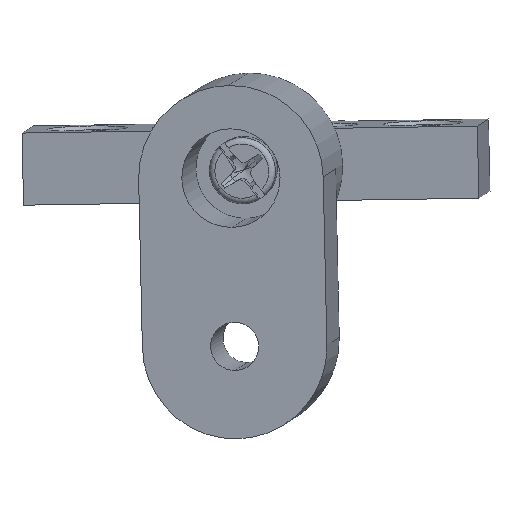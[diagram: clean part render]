
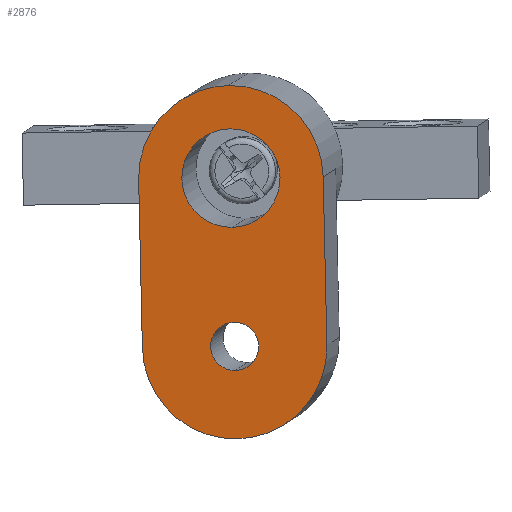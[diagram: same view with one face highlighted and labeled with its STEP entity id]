
A CAD part, front view. The second image highlights one B-rep face of the part: STEP entity #2876.
In plain terms, the highlighted planar face has unit normal (-0.102, -0.993, -0.065) as drawn and (0, 0, -1) by its records, which use the part's own axes.
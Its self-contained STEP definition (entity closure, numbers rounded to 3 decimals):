
#40 = EDGE_CURVE ( 'NONE', #6148, #3262, #1898, .T. ) ;
#105 = EDGE_LOOP ( 'NONE', ( #698, #129 ) ) ;
#115 = DIRECTION ( 'NONE',  ( 0., 0., -1. ) ) ;
#129 = ORIENTED_EDGE ( 'NONE', *, *, #2810, .F. ) ;
#165 = CIRCLE ( 'NONE', #5107, 7.7 ) ;
#345 = CARTESIAN_POINT ( 'NONE',  ( 0., 7.7, 0. ) ) ;
#408 = EDGE_LOOP ( 'NONE', ( #2047, #963, #5113, #563, #5717 ) ) ;
#434 = DIRECTION ( 'NONE',  ( 0., 0., -1. ) ) ;
#512 = AXIS2_PLACEMENT_3D ( 'NONE', #3101, #115, #3608 ) ;
#563 = ORIENTED_EDGE ( 'NONE', *, *, #3459, .F. ) ;
#624 = CARTESIAN_POINT ( 'NONE',  ( 14., 0., 0. ) ) ;
#698 = ORIENTED_EDGE ( 'NONE', *, *, #1402, .F. ) ;
#860 = ORIENTED_EDGE ( 'NONE', *, *, #1858, .T. ) ;
#921 = VERTEX_POINT ( 'NONE', #2602 ) ;
#924 = EDGE_CURVE ( 'NONE', #2539, #1286, #3865, .T. ) ;
#963 = ORIENTED_EDGE ( 'NONE', *, *, #924, .F. ) ;
#1144 = DIRECTION ( 'NONE',  ( 1., 0., 0. ) ) ;
#1259 = EDGE_CURVE ( 'NONE', #6032, #4727, #3233, .T. ) ;
#1286 = VERTEX_POINT ( 'NONE', #345 ) ;
#1301 = CIRCLE ( 'NONE', #3831, 4.1 ) ;
#1402 = EDGE_CURVE ( 'NONE', #2049, #1942, #1301, .T. ) ;
#1414 = LINE ( 'NONE', #5117, #2734 ) ;
#1422 = FACE_BOUND ( 'NONE', #4714, .T. ) ;
#1467 = CARTESIAN_POINT ( 'NONE',  ( -7.7, 0., 0. ) ) ;
#1780 = AXIS2_PLACEMENT_3D ( 'NONE', #1813, #5267, #2317 ) ;
#1813 = CARTESIAN_POINT ( 'NONE',  ( 0., 0., 0. ) ) ;
#1846 = DIRECTION ( 'NONE',  ( 1., 0., 0. ) ) ;
#1858 = EDGE_CURVE ( 'NONE', #4727, #6032, #4989, .T. ) ;
#1898 = CIRCLE ( 'NONE', #5796, 7.7 ) ;
#1921 = DIRECTION ( 'NONE',  ( 0., 0., 1. ) ) ;
#1942 = VERTEX_POINT ( 'NONE', #5504 ) ;
#2047 = ORIENTED_EDGE ( 'NONE', *, *, #3990, .F. ) ;
#2049 = VERTEX_POINT ( 'NONE', #4590 ) ;
#2090 = CARTESIAN_POINT ( 'NONE',  ( 0., 7.7, 0. ) ) ;
#2315 = EDGE_CURVE ( 'NONE', #921, #2539, #165, .T. ) ;
#2317 = DIRECTION ( 'NONE',  ( 1., 0., 0. ) ) ;
#2356 = DIRECTION ( 'NONE',  ( 0., 0., 1. ) ) ;
#2539 = VERTEX_POINT ( 'NONE', #6379 ) ;
#2602 = CARTESIAN_POINT ( 'NONE',  ( 14., -7.7, 0. ) ) ;
#2734 = VECTOR ( 'NONE', #6103, 1000. ) ;
#2810 = EDGE_CURVE ( 'NONE', #1942, #2049, #3910, .T. ) ;
#2846 = DIRECTION ( 'NONE',  ( 0., 0., 1. ) ) ;
#2876 = ADVANCED_FACE ( 'NONE', ( #1422, #6368, #3758 ), #5406, .F. ) ;
#2945 = DIRECTION ( 'NONE',  ( 0., 0., 1. ) ) ;
#3101 = CARTESIAN_POINT ( 'NONE',  ( 0., 0., 0. ) ) ;
#3193 = CIRCLE ( 'NONE', #1780, 7.7 ) ;
#3233 = CIRCLE ( 'NONE', #6255, 2. ) ;
#3262 = VERTEX_POINT ( 'NONE', #4652 ) ;
#3436 = CARTESIAN_POINT ( 'NONE',  ( 0., 0., 0. ) ) ;
#3459 = EDGE_CURVE ( 'NONE', #3262, #921, #1414, .T. ) ;
#3608 = DIRECTION ( 'NONE',  ( -1., 0., 0. ) ) ;
#3758 = FACE_OUTER_BOUND ( 'NONE', #408, .T. ) ;
#3831 = AXIS2_PLACEMENT_3D ( 'NONE', #3436, #434, #3939 ) ;
#3861 = AXIS2_PLACEMENT_3D ( 'NONE', #5901, #2945, #6400 ) ;
#3865 = LINE ( 'NONE', #2090, #6322 ) ;
#3910 = CIRCLE ( 'NONE', #512, 4.1 ) ;
#3939 = DIRECTION ( 'NONE',  ( -1., 0., 0. ) ) ;
#3990 = EDGE_CURVE ( 'NONE', #1286, #6148, #3193, .T. ) ;
#4081 = DIRECTION ( 'NONE',  ( -1., 0., 0. ) ) ;
#4118 = DIRECTION ( 'NONE',  ( 0., 0., 1. ) ) ;
#4353 = CARTESIAN_POINT ( 'NONE',  ( 12., 0., 0. ) ) ;
#4590 = CARTESIAN_POINT ( 'NONE',  ( -4.1, 0., 0. ) ) ;
#4652 = CARTESIAN_POINT ( 'NONE',  ( 0., -7.7, 0. ) ) ;
#4714 = EDGE_LOOP ( 'NONE', ( #860, #6233 ) ) ;
#4727 = VERTEX_POINT ( 'NONE', #5507 ) ;
#4890 = CARTESIAN_POINT ( 'NONE',  ( 14., 0., 0. ) ) ;
#4989 = CIRCLE ( 'NONE', #6017, 2. ) ;
#5107 = AXIS2_PLACEMENT_3D ( 'NONE', #624, #4118, #1144 ) ;
#5113 = ORIENTED_EDGE ( 'NONE', *, *, #2315, .F. ) ;
#5117 = CARTESIAN_POINT ( 'NONE',  ( 0., -7.7, 0. ) ) ;
#5267 = DIRECTION ( 'NONE',  ( 0., 0., 1. ) ) ;
#5384 = DIRECTION ( 'NONE',  ( 1., 0., 0. ) ) ;
#5406 = PLANE ( 'NONE',  #3861 ) ;
#5504 = CARTESIAN_POINT ( 'NONE',  ( 4.1, 0., 0. ) ) ;
#5507 = CARTESIAN_POINT ( 'NONE',  ( 16., 0., 0. ) ) ;
#5717 = ORIENTED_EDGE ( 'NONE', *, *, #40, .F. ) ;
#5796 = AXIS2_PLACEMENT_3D ( 'NONE', #6307, #2356, #1846 ) ;
#5799 = CARTESIAN_POINT ( 'NONE',  ( 14., 0., 0. ) ) ;
#5901 = CARTESIAN_POINT ( 'NONE',  ( 0., 0., 0. ) ) ;
#6017 = AXIS2_PLACEMENT_3D ( 'NONE', #4890, #1921, #5384 ) ;
#6032 = VERTEX_POINT ( 'NONE', #4353 ) ;
#6103 = DIRECTION ( 'NONE',  ( 1., 0., 0. ) ) ;
#6148 = VERTEX_POINT ( 'NONE', #1467 ) ;
#6233 = ORIENTED_EDGE ( 'NONE', *, *, #1259, .T. ) ;
#6255 = AXIS2_PLACEMENT_3D ( 'NONE', #5799, #2846, #6298 ) ;
#6298 = DIRECTION ( 'NONE',  ( 1., 0., 0. ) ) ;
#6307 = CARTESIAN_POINT ( 'NONE',  ( 0., 0., 0. ) ) ;
#6322 = VECTOR ( 'NONE', #4081, 1000. ) ;
#6368 = FACE_BOUND ( 'NONE', #105, .T. ) ;
#6379 = CARTESIAN_POINT ( 'NONE',  ( 14., 7.7, 0. ) ) ;
#6400 = DIRECTION ( 'NONE',  ( 1., 0., 0. ) ) ;
